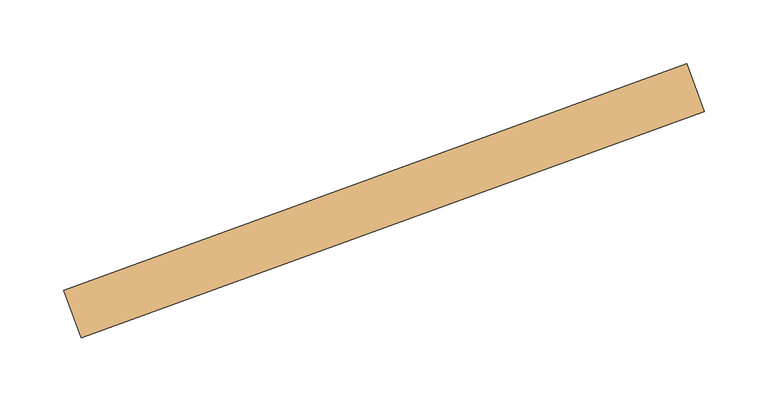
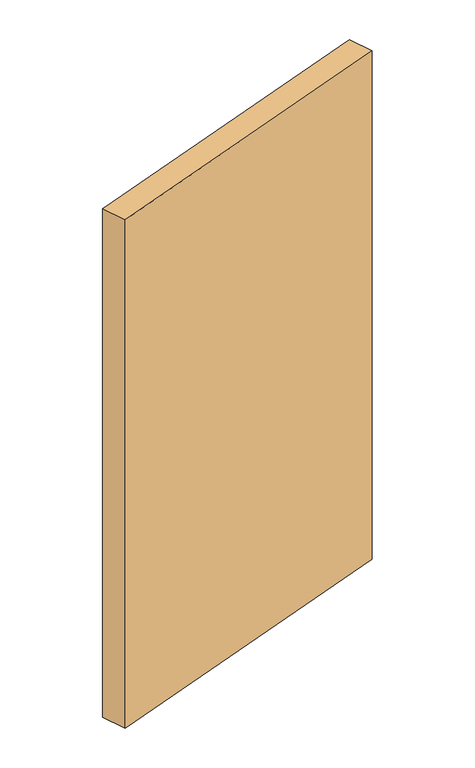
"""IFC4 building model written with IfcOpenShell, lengths in millimetres: door geometry, brystning2 : brystning2."""

import ifcopenshell
import ifcopenshell.guid

model = None  # the IFC model being written
_history = None  # IfcOwnerHistory: only IFC2X3 demands one
_inside = {}  # id of a spatial element -> (the spatial element, [elements in it])
_under = {}  # id of a project, library or spatial element -> (it, [spatial elements below it])
_declared = {}  # id of a project -> (the project, [libraries it declares])
_typed = {}  # id of a type object -> (the type object, [elements of that type])
_made_of = {}  # id of a material, layer set ... -> (it, [elements and type objects made of it])


def new_model(schema):
    """Start an empty IFC model of exactly this schema.

    Asked for "IFC4X3", IfcOpenShell would pick the latest addendum, in which some entities
    have other attributes; the version numbers below select the first issue.
    IFC2X3 requires an IfcOwnerHistory on every rooted entity: one is made here for all.
    """
    global model, _history
    if schema == "IFC4X3":
        model = ifcopenshell.file(schema_version=(4, 3, 0, 0))
    else:
        model = ifcopenshell.file(schema=schema)
    _inside.clear()
    _under.clear()
    _declared.clear()
    _typed.clear()
    _made_of.clear()
    _history = None
    if model.schema == "IFC2X3":
        org = make("IfcOrganization", Name="unknown")
        user = make(
            "IfcPersonAndOrganization",
            ThePerson=make("IfcPerson", FamilyName="unknown"),
            TheOrganization=org,
        )
        app = make(
            "IfcApplication",
            ApplicationDeveloper=org,
            Version="unknown",
            ApplicationFullName="unknown",
            ApplicationIdentifier="unknown",
        )
        _history = make(
            "IfcOwnerHistory",
            OwningUser=user,
            OwningApplication=app,
            ChangeAction="ADDED",
            CreationDate=0,
        )
    return model


def make(cls, **values):
    """One entity of the class cls with the attributes given. An attribute that is None is left unset."""
    return model.create_entity(
        cls, **{name: value for name, value in values.items() if value is not None}
    )


def rooted(cls, **values):
    """An entity with a GlobalId (a new one), such as an element, a storey or a relation."""
    return make(cls, GlobalId=ifcopenshell.guid.new(), OwnerHistory=_history, **values)


def si_unit(unit_type, name, prefix=None):
    """IfcSIUnit, for example si_unit("LENGTHUNIT", "METRE", prefix="MILLI")."""
    return make("IfcSIUnit", UnitType=unit_type, Prefix=prefix, Name=name)


def assignment(units):
    """IfcUnitAssignment: the units of a project."""
    return None if units is None else make("IfcUnitAssignment", Units=units)


def point(xyz):
    """IfcCartesianPoint."""
    return None if xyz is None else make("IfcCartesianPoint", Coordinates=xyz)


def direction(xyz):
    """IfcDirection."""
    return None if xyz is None else make("IfcDirection", DirectionRatios=xyz)


def frame(location, z_axis=None, x_axis=None):
    """IfcAxis2Placement3D, a coordinate frame: its origin and axes. An axis left out is left unset."""
    return make(
        "IfcAxis2Placement3D",
        Location=point(location),
        Axis=direction(z_axis),
        RefDirection=direction(x_axis),
    )


def origin():
    """The frame at (0, 0, 0) with its axes left unset."""
    return frame((0.0, 0.0, 0.0))


def place(relative_to, where):
    """IfcLocalPlacement: puts the frame where relative to a parent placement (None: the world)."""
    return make(
        "IfcLocalPlacement", PlacementRelTo=relative_to, RelativePlacement=where
    )


def context(
    kind, dimensions, precision=None, world=None, true_north=None, identifier=None
):
    """IfcGeometricRepresentationContext, for example the 3D "Model" context."""
    return make(
        "IfcGeometricRepresentationContext",
        ContextIdentifier=identifier,
        ContextType=kind,
        CoordinateSpaceDimension=dimensions,
        Precision=precision,
        WorldCoordinateSystem=world,
        TrueNorth=true_north,
    )


def project(units=None, contexts=None):
    """IfcProject with its units and contexts."""
    return rooted(
        "IfcProject",
        Name="project",
        RepresentationContexts=contexts,
        UnitsInContext=assignment(units),
    )


def spatial(cls, under=None, at=None, **own):
    """A site, building, storey or space (cls), placed at a placement, below another one or the project."""
    s = rooted(cls, ObjectPlacement=at, **own)
    if under is not None:
        _under.setdefault(under.id(), (under, []))[1].append(s)
    return s


def polyline(points):
    """IfcPolyline through the points."""
    return make("IfcPolyline", Points=[point(p) for p in points])


def outline(outer, holes=None, kind="AREA"):
    """IfcArbitraryClosedProfileDef: a profile drawn as a closed curve; with holes, ...WithVoids."""
    if holes is None:
        return make("IfcArbitraryClosedProfileDef", ProfileType=kind, OuterCurve=outer)
    return make(
        "IfcArbitraryProfileDefWithVoids",
        ProfileType=kind,
        OuterCurve=outer,
        InnerCurves=holes,
    )


def extrude(swept, where, along, depth):
    """IfcExtrudedAreaSolid: the profile swept, set in the frame where, extruded along a direction by depth."""
    return make(
        "IfcExtrudedAreaSolid",
        SweptArea=swept,
        Position=where,
        ExtrudedDirection=direction(along),
        Depth=depth,
    )


def shape(context_of_items, identifier, shape_type, items):
    """IfcShapeRepresentation: the items that make up one representation, for example the "Body"."""
    return make(
        "IfcShapeRepresentation",
        ContextOfItems=context_of_items,
        RepresentationIdentifier=identifier,
        RepresentationType=shape_type,
        Items=items,
    )


def source(mapping_origin, context_of_items, identifier, shape_type, items):
    """IfcRepresentationMap: a shape defined once, which mapped items show again and again."""
    return make(
        "IfcRepresentationMap",
        MappingOrigin=mapping_origin,
        MappedRepresentation=shape(context_of_items, identifier, shape_type, items),
    )


def transform(
    local_origin,
    x_axis=None,
    y_axis=None,
    z_axis=None,
    scale=None,
    scale2=None,
    scale3=None,
    uniform=True,
):
    """IfcCartesianTransformationOperator3D, or its non-uniform kind. x_axis, y_axis, z_axis: its Axis1, 2, 3."""
    if uniform:
        return make(
            "IfcCartesianTransformationOperator3D",
            Axis1=direction(x_axis),
            Axis2=direction(y_axis),
            LocalOrigin=point(local_origin),
            Scale=scale,
            Axis3=direction(z_axis),
        )
    return make(
        "IfcCartesianTransformationOperator3DnonUniform",
        Axis1=direction(x_axis),
        Axis2=direction(y_axis),
        LocalOrigin=point(local_origin),
        Scale=scale,
        Axis3=direction(z_axis),
        Scale2=scale2,
        Scale3=scale3,
    )


def mapped(mapping_source, mapping_target):
    """IfcMappedItem: shows the shape of a source again, moved by a transform."""
    return make(
        "IfcMappedItem", MappingSource=mapping_source, MappingTarget=mapping_target
    )


def made_of(thing, what):
    """Note that an element or type object is made of a material, layer set ...; save() writes the relation."""
    if what is not None:
        _made_of.setdefault(what.id(), (what, []))[1].append(thing)
    return thing


def element(
    cls,
    number,
    at=None,
    inside=None,
    cuts=None,
    type_object=None,
    material=None,
    context=None,
    identifier="Body",
    shape_type=None,
    held_by="IfcProductDefinitionShape",
    body=None,
    shapes=None,
    **own,
):
    """One element of the class cls, such as IfcWall. Its Tag is "e" and its number.

    at: its placement. inside: the storey or other place that contains it. cuts: it is an
    opening in that element (IfcRelVoidsElement). A single representation is given by context,
    identifier, shape_type and body (its items); several are given by shapes. held_by: the class
    of the entity that holds the representations. save() writes the other relations.
    """
    e = rooted(cls, Tag="e%d" % number, ObjectPlacement=at, **own)
    if body is not None:
        shapes = [shape(context, identifier, shape_type, body)]
    if shapes is not None:
        e.Representation = make(held_by, Representations=shapes)
    if inside is not None:
        _inside.setdefault(inside.id(), (inside, []))[1].append(e)
    if cuts is not None:
        rooted(
            "IfcRelVoidsElement", RelatingBuildingElement=cuts, RelatedOpeningElement=e
        )
    if type_object is not None:
        _typed.setdefault(type_object.id(), (type_object, []))[1].append(e)
    return made_of(e, material)


def aggregate(whole, parts):
    """IfcRelAggregates: a whole, such as a stair, and the parts it consists of."""
    return rooted("IfcRelAggregates", RelatingObject=whole, RelatedObjects=parts)


def save(model, path):
    """Write the relations noted so far, then the file.

    IfcRelAggregates (storeys below a building ...), IfcRelContainedInSpatialStructure (elements
    in a storey), IfcRelDefinesByType, IfcRelAssociatesMaterial and IfcRelDeclares: one each for
    every whole, place, type object, material and project.
    """
    for whole, parts in _under.values():
        aggregate(whole, parts)
    for where, things in _inside.values():
        rooted(
            "IfcRelContainedInSpatialStructure",
            RelatedElements=things,
            RelatingStructure=where,
        )
    for kind, things in _typed.values():
        rooted("IfcRelDefinesByType", RelatedObjects=things, RelatingType=kind)
    for what, things in _made_of.values():
        rooted("IfcRelAssociatesMaterial", RelatedObjects=things, RelatingMaterial=what)
    for by, libraries in _declared.values():
        rooted("IfcRelDeclares", RelatingContext=by, RelatedDefinitions=libraries)
    model.write(path)


def door_7c9a4ce3(model_context):
    return source(origin(), model_context, "Body", "SweptSolid", [
        extrude(outline(polyline([(42424.5946245, -35133.9191864), (41935.9544617, -35311.7696609), (41922.273656, -35274.1819561), (42410.9138188, -35096.3314815), (42424.5946245, -35133.9191864)])), frame((0.0, 0.0, 7261.0), z_axis=(0.0, 0.0, 1.0), x_axis=(1.0, 0.0, 0.0)), (0.0, 0.0, 1.0), 840.0),
    ])


if __name__ == "__main__":
    model = new_model("IFC4")
    model_context = context("Model", 3, world=origin())
    ifc_project = project(units=[si_unit("LENGTHUNIT", "METRE", prefix="MILLI")], contexts=[model_context])
    site = spatial("IfcSite", under=ifc_project)
    building = spatial("IfcBuilding", under=site)
    placement = place(None, origin())
    door_shape = door_7c9a4ce3(model_context)
    element("IfcDoor", 1, ObjectType="brystning2 : brystning2", at=placement, inside=building, context=model_context, shape_type="MappedRepresentation", body=[
        mapped(door_shape, transform((0.0, 0.0, 0.0), x_axis=(1.0, 0.0, 0.0), y_axis=(0.0, 1.0, 0.0), z_axis=(0.0, 0.0, 1.0))),
    ])
    save(model, "model.ifc")
